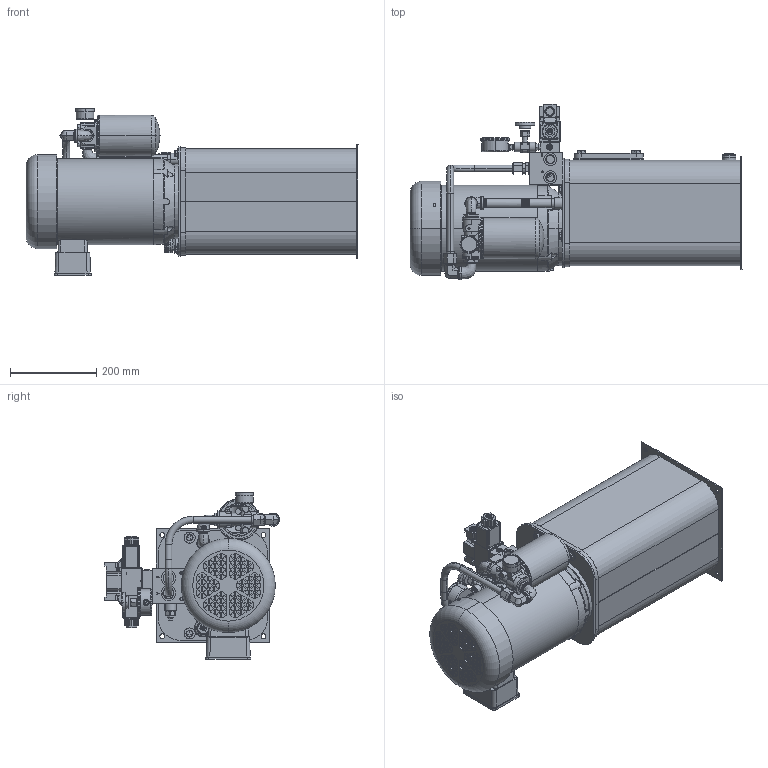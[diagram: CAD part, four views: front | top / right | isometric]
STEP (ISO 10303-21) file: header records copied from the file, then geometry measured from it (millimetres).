
FILE_DESCRIPTION (( 'STEP AP214' ), '1' );
FILE_NAME ('T5V-20-M-P1-F1-079.STEP', '2021-09-27T00:50:48', ( '' ), ( '' ), 'SwSTEP 2.0', 'SolidWorks 2020', '' );
FILE_SCHEMA (( 'AUTOMOTIVE_DESIGN' ));
Length unit declared in the file: inch
Products named in the file (1): T5V-20-M-P1-F1-079
Bounding box: 770.82 x 407.03 x 387.51 mm (x, y, z)
Surface area: 1245890.4 mm2 (no closed solid volume)
Topology: 0 solids, 110 shells, 2169 faces, 8958 edges, 6614 vertices
Faces by surface type: plane 1079, cylinder 541, cone 355, torus 90, bspline 77, sphere 27
Entity records: 172832 total; most frequent: CARTESIAN_POINT 73899, DIRECTION 14159, ORIENTED_EDGE 13245, EDGE_CURVE 8935, VERTEX_POINT 6614, VECTOR 4889, LINE 4889, AXIS2_PLACEMENT_3D 4635
